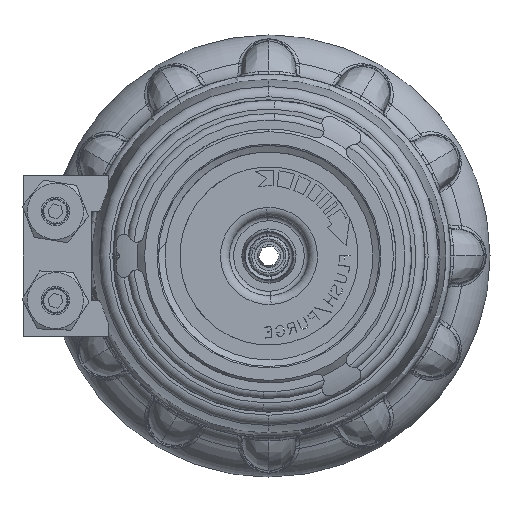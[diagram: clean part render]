
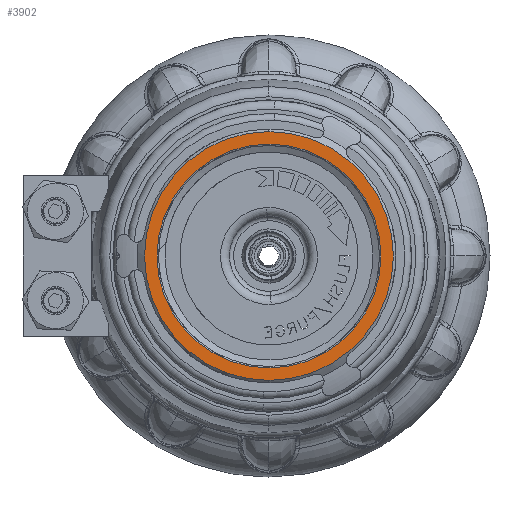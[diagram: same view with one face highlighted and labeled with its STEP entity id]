
A CAD part, left-side view. The second image highlights one B-rep face of the part: STEP entity #3902.
In plain terms, the highlighted planar face has unit normal (-1, 0, 0).
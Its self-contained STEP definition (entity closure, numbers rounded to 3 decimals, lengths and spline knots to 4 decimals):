
#741 = PLANE ( 'NONE',  #63082 ) ;
#1321 = FACE_OUTER_BOUND ( 'NONE', #83515, .T. ) ;
#3902 = ADVANCED_FACE ( 'NONE', ( #45830, #1321 ), #741, .F. ) ;
#6569 = CARTESIAN_POINT ( 'NONE',  ( -3.9154, 0., 0. ) ) ;
#13276 = ORIENTED_EDGE ( 'NONE', *, *, #61755, .F. ) ;
#13882 = EDGE_CURVE ( 'NONE', #101219, #97592, #40658, .T. ) ;
#16051 = CARTESIAN_POINT ( 'NONE',  ( -3.9154, 0., 0. ) ) ;
#16083 = DIRECTION ( 'NONE',  ( 1., 0., 0. ) ) ;
#18388 = EDGE_CURVE ( 'NONE', #22516, #34679, #97594, .T. ) ;
#22516 = VERTEX_POINT ( 'NONE', #48595 ) ;
#24948 = DIRECTION ( 'NONE',  ( 0., 0., -1. ) ) ;
#25616 = CARTESIAN_POINT ( 'NONE',  ( -3.9154, 0., -1.5701 ) ) ;
#29018 = CARTESIAN_POINT ( 'NONE',  ( -3.9154, 0., 1.7451 ) ) ;
#29694 = ORIENTED_EDGE ( 'NONE', *, *, #50486, .T. ) ;
#30918 = CIRCLE ( 'NONE', #52429, 1.5701 ) ;
#34679 = VERTEX_POINT ( 'NONE', #29018 ) ;
#40658 = CIRCLE ( 'NONE', #78408, 1.5701 ) ;
#43237 = CARTESIAN_POINT ( 'NONE',  ( -3.9154, 0., 0. ) ) ;
#44470 = AXIS2_PLACEMENT_3D ( 'NONE', #85869, #51244, #97544 ) ;
#45830 = FACE_BOUND ( 'NONE', #59799, .T. ) ;
#47132 = CARTESIAN_POINT ( 'NONE',  ( -3.9154, 0., 1.5701 ) ) ;
#48595 = CARTESIAN_POINT ( 'NONE',  ( -3.9154, 0., -1.7452 ) ) ;
#50486 = EDGE_CURVE ( 'NONE', #97592, #101219, #30918, .T. ) ;
#51244 = DIRECTION ( 'NONE',  ( 1., 0., 0. ) ) ;
#51949 = DIRECTION ( 'NONE',  ( 0., 0., -1. ) ) ;
#52396 = ORIENTED_EDGE ( 'NONE', *, *, #18388, .F. ) ;
#52429 = AXIS2_PLACEMENT_3D ( 'NONE', #43237, #101938, #51949 ) ;
#59799 = EDGE_LOOP ( 'NONE', ( #92409, #29694 ) ) ;
#61755 = EDGE_CURVE ( 'NONE', #34679, #22516, #86723, .T. ) ;
#63082 = AXIS2_PLACEMENT_3D ( 'NONE', #74870, #92448, #24948 ) ;
#73712 = DIRECTION ( 'NONE',  ( 1., 0., 0. ) ) ;
#74870 = CARTESIAN_POINT ( 'NONE',  ( -3.9154, 0., 0. ) ) ;
#78408 = AXIS2_PLACEMENT_3D ( 'NONE', #16051, #73712, #82110 ) ;
#82110 = DIRECTION ( 'NONE',  ( 0., 0., -1. ) ) ;
#83256 = DIRECTION ( 'NONE',  ( 0., 0., -1. ) ) ;
#83515 = EDGE_LOOP ( 'NONE', ( #52396, #13276 ) ) ;
#85869 = CARTESIAN_POINT ( 'NONE',  ( -3.9154, 0., 0. ) ) ;
#86723 = CIRCLE ( 'NONE', #95027, 1.7451 ) ;
#92409 = ORIENTED_EDGE ( 'NONE', *, *, #13882, .T. ) ;
#92448 = DIRECTION ( 'NONE',  ( 1., 0., 0. ) ) ;
#95027 = AXIS2_PLACEMENT_3D ( 'NONE', #6569, #16083, #83256 ) ;
#97544 = DIRECTION ( 'NONE',  ( 0., 0., -1. ) ) ;
#97592 = VERTEX_POINT ( 'NONE', #47132 ) ;
#97594 = CIRCLE ( 'NONE', #44470, 1.7451 ) ;
#101219 = VERTEX_POINT ( 'NONE', #25616 ) ;
#101938 = DIRECTION ( 'NONE',  ( 1., 0., 0. ) ) ;
